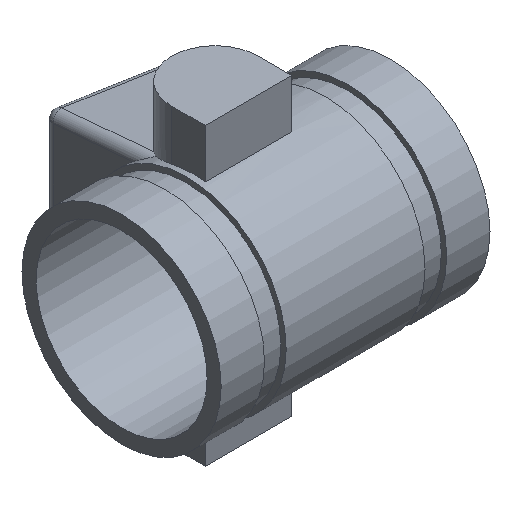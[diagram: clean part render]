
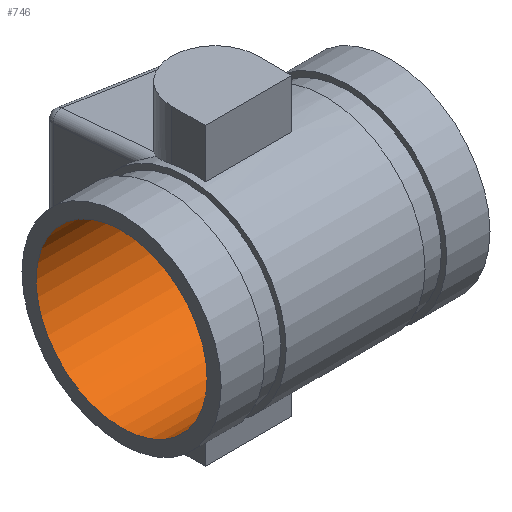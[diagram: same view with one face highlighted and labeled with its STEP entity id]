
A CAD part, isometric view. The second image highlights one B-rep face of the part: STEP entity #746.
In plain terms, the highlighted cylindrical face has radius 31.356 mm (diameter 62.713 mm), a full revolution.
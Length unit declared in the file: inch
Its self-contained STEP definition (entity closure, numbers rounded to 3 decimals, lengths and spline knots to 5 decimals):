
#89=LINE('',#1395,#127);
#127=VECTOR('',#1078,1.2345);
#157=CYLINDRICAL_SURFACE('',#860,1.2345);
#197=FACE_OUTER_BOUND('',#244,.T.);
#244=EDGE_LOOP('',(#655,#656,#657,#658,#659,#660));
#268=CIRCLE('',#828,1.2345);
#269=CIRCLE('',#829,1.2345);
#288=CIRCLE('',#858,1.2345);
#289=CIRCLE('',#859,1.2345);
#336=VERTEX_POINT('',#1335);
#337=VERTEX_POINT('',#1336);
#356=VERTEX_POINT('',#1390);
#357=VERTEX_POINT('',#1391);
#431=EDGE_CURVE('',#336,#337,#268,.T.);
#432=EDGE_CURVE('',#337,#336,#269,.T.);
#456=EDGE_CURVE('',#356,#357,#288,.T.);
#457=EDGE_CURVE('',#357,#356,#289,.T.);
#458=EDGE_CURVE('',#357,#337,#89,.T.);
#655=ORIENTED_EDGE('',*,*,#456,.T.);
#656=ORIENTED_EDGE('',*,*,#458,.T.);
#657=ORIENTED_EDGE('',*,*,#431,.F.);
#658=ORIENTED_EDGE('',*,*,#432,.F.);
#659=ORIENTED_EDGE('',*,*,#458,.F.);
#660=ORIENTED_EDGE('',*,*,#457,.T.);
#746=ADVANCED_FACE('',(#197),#157,.F.);
#828=AXIS2_PLACEMENT_3D('',#1337,#1007,#1008);
#829=AXIS2_PLACEMENT_3D('',#1338,#1009,#1010);
#858=AXIS2_PLACEMENT_3D('',#1392,#1072,#1073);
#859=AXIS2_PLACEMENT_3D('',#1393,#1074,#1075);
#860=AXIS2_PLACEMENT_3D('',#1394,#1076,#1077);
#1007=DIRECTION('center_axis',(1.,0.,0.));
#1008=DIRECTION('ref_axis',(0.,0.,-1.));
#1009=DIRECTION('center_axis',(1.,0.,0.));
#1010=DIRECTION('ref_axis',(0.,0.,-1.));
#1072=DIRECTION('center_axis',(1.,0.,0.));
#1073=DIRECTION('ref_axis',(0.,0.,-1.));
#1074=DIRECTION('center_axis',(1.,0.,0.));
#1075=DIRECTION('ref_axis',(0.,0.,-1.));
#1076=DIRECTION('center_axis',(1.,0.,0.));
#1077=DIRECTION('ref_axis',(0.,1.,0.));
#1078=DIRECTION('',(-1.,0.,0.));
#1335=CARTESIAN_POINT('',(0.,1.2345,0.));
#1336=CARTESIAN_POINT('',(0.,-1.2345,0.));
#1337=CARTESIAN_POINT('Origin',(0.,0.,
0.));
#1338=CARTESIAN_POINT('Origin',(0.,0.,
0.));
#1390=CARTESIAN_POINT('',(3.88,1.2345,0.));
#1391=CARTESIAN_POINT('',(3.88,-1.2345,0.));
#1392=CARTESIAN_POINT('Origin',(3.88,0.,0.));
#1393=CARTESIAN_POINT('Origin',(3.88,0.,0.));
#1394=CARTESIAN_POINT('Origin',(1.94,0.,0.));
#1395=CARTESIAN_POINT('',(1.94,-1.2345,0.));
